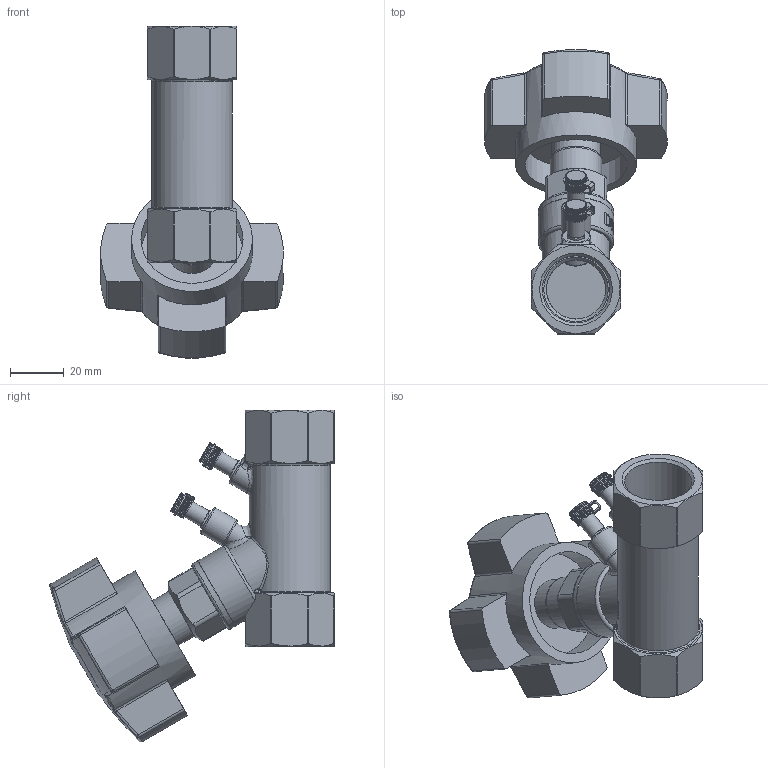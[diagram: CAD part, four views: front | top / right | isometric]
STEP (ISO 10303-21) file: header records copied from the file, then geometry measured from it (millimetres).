
FILE_DESCRIPTION(('STEP AP242'), '1');
FILE_NAME('VB0000P-T Êëàïàí áàëàíñèðîâî÷íûé Äó25 Ðó16', '2026-04-26T17:24:24', ('R2D2'), (''), 'C3D Converter', 'C3D Toolkit', '');
FILE_SCHEMA(('AP242_MANAGED_MODEL_BASED_3D_ENGINEERING_MIM_LF { 1 0 10303 442 1 1 4 }'));
Length unit declared in the file: millimetre
Products named in the file (1): VB0000P-T
Bounding box: 67.83 x 105.89 x 123.51 mm (x, y, z)
Volume: 135079.6 mm3; surface area: 34541.8 mm2
Topology: 1 solids, 1 shells, 1259 faces, 3321 edges, 2103 vertices
Faces by surface type: plane 909, extrusion 123, cylinder 113, bspline 71, torus 21, cone 14, sphere 8
Full cylindrical faces by diameter (mm): 6.5 x2, 11 x1, 15 x1, 17.157 x1, 18 x1, 19.261 x1, 22 x1, 25 x2, 28 x2, 30 x1, 38 x1, 45 x1
Entity records: 67182 total; most frequent: CARTESIAN_POINT 27836, ORIENTED_EDGE 6566, DIRECTION 5047, EDGE_CURVE 3283, VECTOR 2111, VERTEX_POINT 2103, LINE 1988, AXIS2_PLACEMENT_3D 1468
